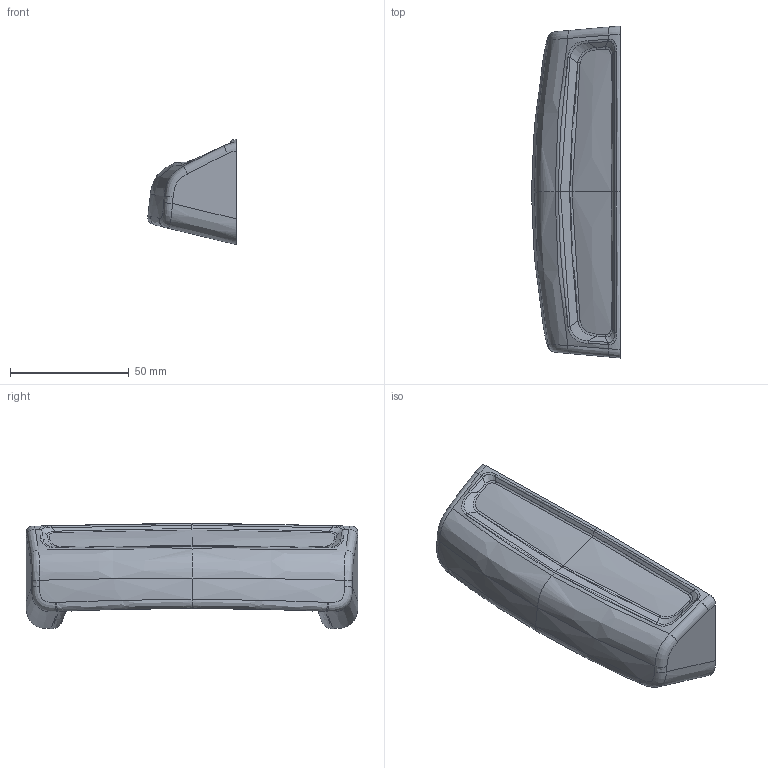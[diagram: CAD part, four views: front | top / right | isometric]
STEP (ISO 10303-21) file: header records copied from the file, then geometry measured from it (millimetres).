
FILE_DESCRIPTION(('CATIA V5 STEP Exchange'),'2;1');
FILE_NAME('F:\11-X3000\2.0平台提升\2.0外观提升\0807\0110\SHT0011968-2021.0108.stp','2021-01-11T09:34:45+00:00',('none'),('none'),'CATIA Version 5 Release 20 GA (IN-10)','CATIA V5 STEP AP203 Edition 2','none');
FILE_SCHEMA(('AP203_CONFIGURATION_CONTROLLED_3D_DESIGN_OF_MECHANICAL_PARTS_AND_ASSEMBLIES_MIM_LF { 1 0 10303 403 2 1 2}'));
Products named in the file (1): SHT0011968
Bounding box: 37.14 x 139.53 x 44.28 mm (x, y, z)
Volume: 45105.3 mm3; surface area: 43542.4 mm2
Topology: 1 solids, 1 shells, 3485 faces, 9921 edges, 6460 vertices
Faces by surface type: plane 2536, bspline 741, cylinder 192, torus 16
Entity records: 172199 total; most frequent: CARTESIAN_POINT 98125, ORIENTED_EDGE 19840, EDGE_CURVE 9920, DIRECTION 8322, B_SPLINE_CURVE_WITH_KNOTS 6861, VERTEX_POINT 6458, EDGE_LOOP 3510, ADVANCED_FACE 3485
